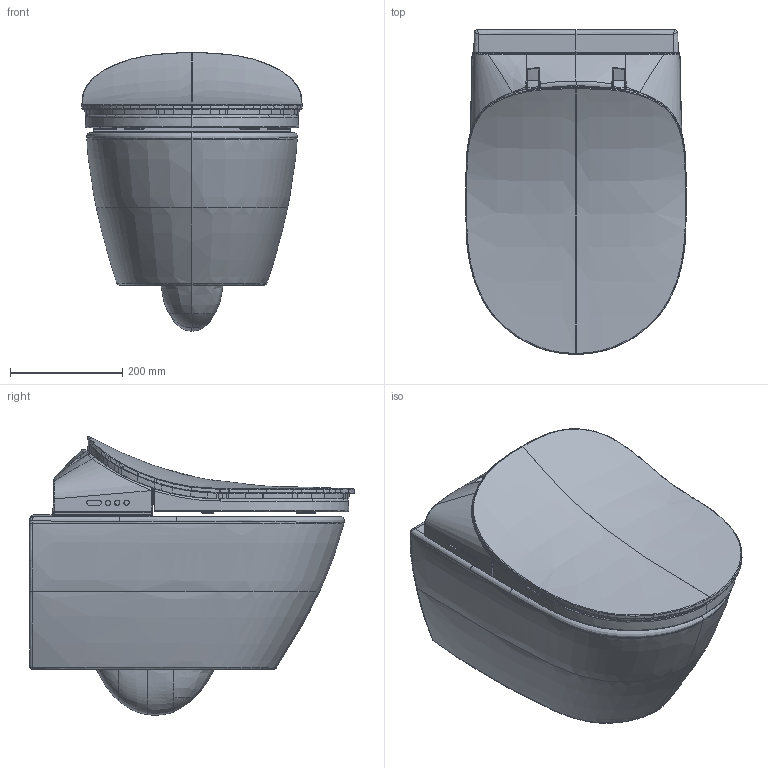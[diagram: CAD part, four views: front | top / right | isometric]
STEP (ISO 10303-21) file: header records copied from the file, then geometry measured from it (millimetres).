
FILE_DESCRIPTION(/* description */ (''),/* implementation_level */ '2;1');
FILE_NAME(/* name */ 'V02EL401_Dusch-WC-Sitz_ViClean-L4.stp',/* time_stamp */ '2019-09-24T11:33:49+02:00',/* author */ (''),/* organization */ (''),/* preprocessor_version */ 'ST-DEVELOPER v16.7',/* originating_system */ 'SIEMENS PLM Software NX 1863',/* authorisation */ '');
FILE_SCHEMA (('AUTOMOTIVE_DESIGN { 1 0 10303 214 3 1 1 1 }'));
Products named in the file (1): ViClean-L
Bounding box: 392.03 x 578.44 x 496.42 mm (x, y, z)
Volume: 36875806.2 mm3; surface area: 1940514.7 mm2
Topology: 4 solids, 5 shells, 1790 faces, 4528 edges, 2755 vertices
Faces by surface type: bspline 1447, plane 152, cylinder 113, cone 56, extrusion 8, torus 8, sphere 6
Full cylindrical faces by diameter (mm): 9 x3, 12 x2, 40 x2
Entity records: 246126 total; most frequent: CARTESIAN_POINT 216217, ORIENTED_EDGE 8965, EDGE_CURVE 4498, B_SPLINE_CURVE_WITH_KNOTS 3773, VERTEX_POINT 2752, EDGE_LOOP 1836, ADVANCED_FACE 1790, FACE_OUTER_BOUND 1751
